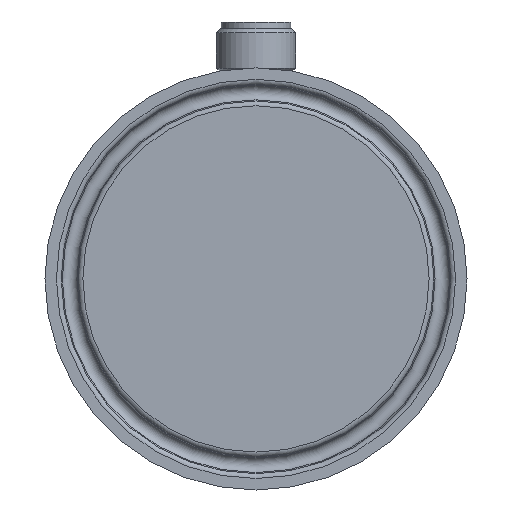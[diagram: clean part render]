
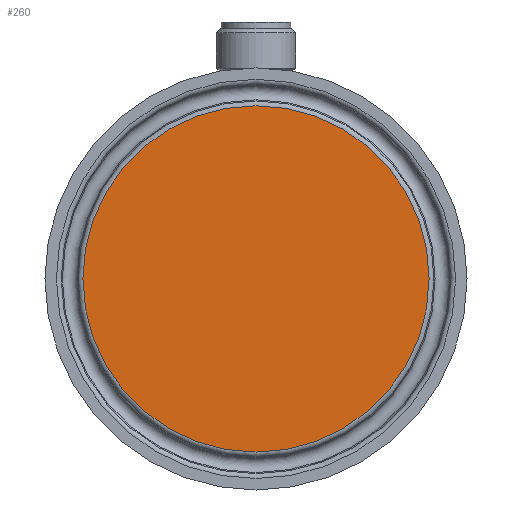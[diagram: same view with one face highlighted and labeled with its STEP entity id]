
A CAD part, front view. The second image highlights one B-rep face of the part: STEP entity #260.
In plain terms, the highlighted planar face has unit normal (0, -1, 0).
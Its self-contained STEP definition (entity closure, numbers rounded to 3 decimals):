
#260 = ADVANCED_FACE( '', ( #722 ), #723, .F. );
#722 = FACE_OUTER_BOUND( '', #1219, .T. );
#723 = PLANE( '', #1220 );
#1219 = EDGE_LOOP( '', ( #2661 ) );
#1220 = AXIS2_PLACEMENT_3D( '', #2662, #2663, #2664 );
#2661 = ORIENTED_EDGE( '', *, *, #3179, .T. );
#2662 = CARTESIAN_POINT( '', ( 26.247, 0., 0. ) );
#2663 = DIRECTION( '', ( 0., 1., 0. ) );
#2664 = DIRECTION( '', ( 0., 0., 1. ) );
#3179 = EDGE_CURVE( '', #3918, #3918, #3919, .T. );
#3918 = VERTEX_POINT( '', #6285 );
#3919 = CIRCLE( '', #6286, 26.247 );
#6285 = CARTESIAN_POINT( '', ( 0., 0., -26.247 ) );
#6286 = AXIS2_PLACEMENT_3D( '', #6898, #6899, #6900 );
#6898 = CARTESIAN_POINT( '', ( 0., 0., 0. ) );
#6899 = DIRECTION( '', ( 0., -1., 0. ) );
#6900 = DIRECTION( '', ( 0., 0., -1. ) );
